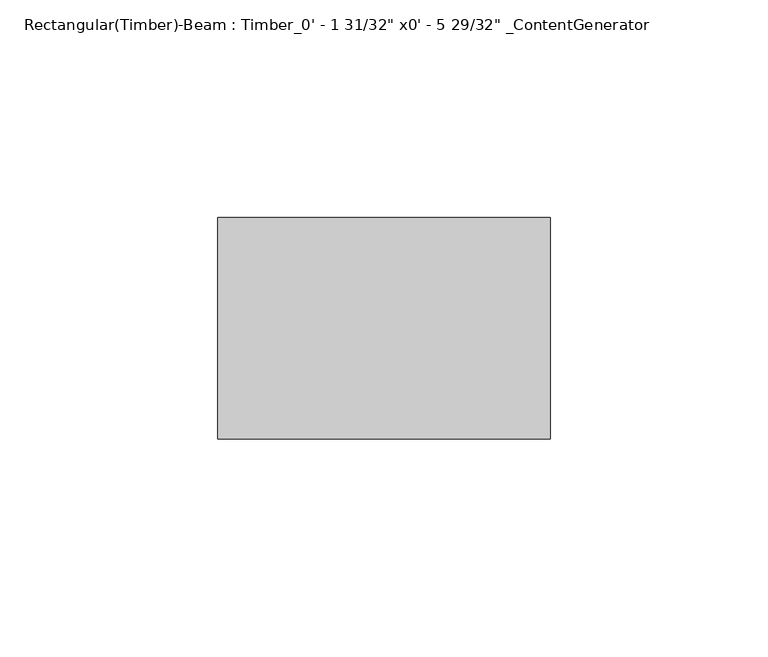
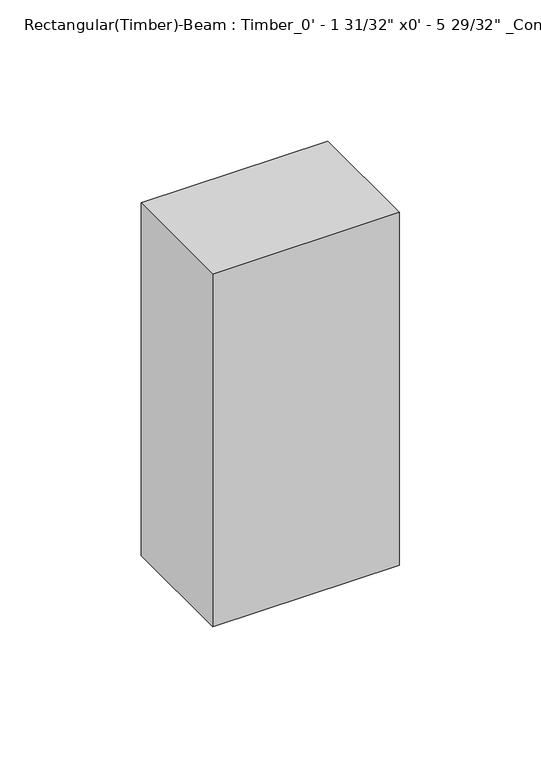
"""IFC4 building model written with IfcOpenShell, lengths in millimetres: beam geometry."""

from ifc_helpers import new_model, si_unit, frame, origin, place, context, project, spatial, polyline, outline, extrude, source, transform, mapped, element, save


def beam_8cce5a94(model_context):
    return source(origin(), model_context, "Body", "SweptSolid", [
        extrude(outline(polyline([(38.0999994, 25.4), (38.0999994, -25.4), (-38.0999994, -25.4), (-38.0999994, 25.4), (38.0999994, 25.4)])), frame((0.0, 0.0, -76.2), z_axis=(0.0, 0.0, 1.0), x_axis=(1.0, 0.0, 0.0)), (0.0, 0.0, 1.0), 152.4),
    ])


if __name__ == "__main__":
    model = new_model("IFC4")
    model_context = context("Model", 3, world=origin())
    ifc_project = project(units=[si_unit("LENGTHUNIT", "METRE", prefix="MILLI")], contexts=[model_context])
    site = spatial("IfcSite", under=ifc_project)
    building = spatial("IfcBuilding", under=site)
    placement = place(None, origin())
    beam_shape = beam_8cce5a94(model_context)
    element("IfcBeam", 1, ObjectType="Rectangular(Timber)-Beam : Timber_0' - 1 31/32\" x0' - 5 29/32\" _ContentGenerator", at=placement, inside=building, context=model_context, shape_type="MappedRepresentation", body=[
        mapped(beam_shape, transform((0.0, 0.0, 0.0), x_axis=(1.0, 0.0, 0.0), y_axis=(0.0, 1.0, 0.0), z_axis=(0.0, 0.0, 1.0))),
    ])
    save(model, "model.ifc")
